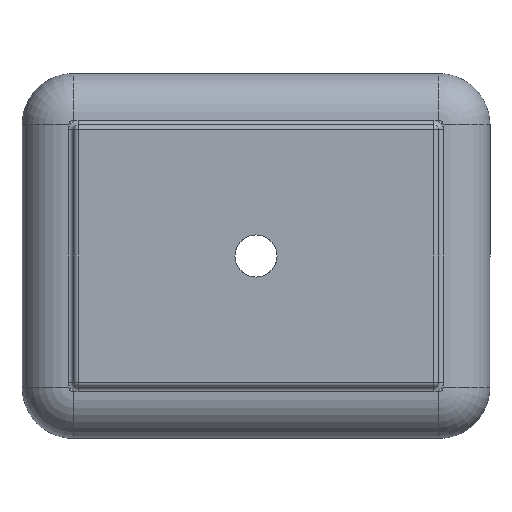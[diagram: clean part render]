
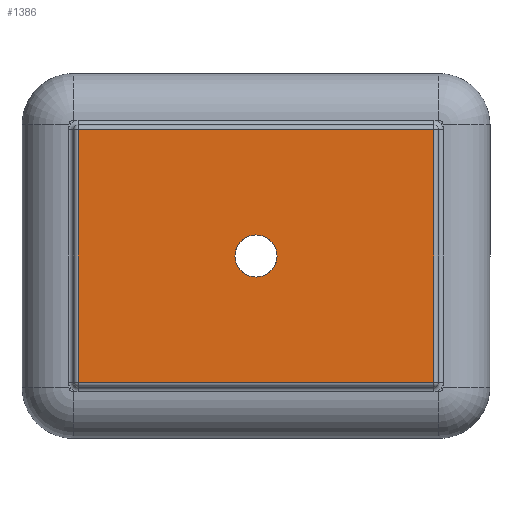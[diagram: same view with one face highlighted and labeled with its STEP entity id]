
A CAD part, front view. The second image highlights one B-rep face of the part: STEP entity #1386.
In plain terms, the highlighted planar face has unit normal (0, -1, 0).
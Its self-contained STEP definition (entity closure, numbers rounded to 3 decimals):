
#99 = CARTESIAN_POINT ( 'NONE',  ( -190., -10., -140. ) ) ;
#429 = ORIENTED_EDGE ( 'NONE', *, *, #2203, .T. ) ;
#693 = EDGE_CURVE ( 'NONE', #2411, #1945, #7846, .T. ) ;
#763 = CIRCLE ( 'NONE', #919, 22.5 ) ;
#919 = AXIS2_PLACEMENT_3D ( 'NONE', #3287, #7529, #4449 ) ;
#1123 = LINE ( 'NONE', #99, #2811 ) ;
#1386 = ADVANCED_FACE ( 'NONE', ( #6167, #6699 ), #7992, .T. ) ;
#1403 = VERTEX_POINT ( 'NONE', #3552 ) ;
#1930 = CARTESIAN_POINT ( 'NONE',  ( -195., -10., 135. ) ) ;
#1945 = VERTEX_POINT ( 'NONE', #6029 ) ;
#1991 = EDGE_CURVE ( 'NONE', #1945, #1403, #1123, .T. ) ;
#2067 = ORIENTED_EDGE ( 'NONE', *, *, #1991, .T. ) ;
#2159 = ORIENTED_EDGE ( 'NONE', *, *, #6231, .T. ) ;
#2165 = VECTOR ( 'NONE', #3246, 1000. ) ;
#2203 = EDGE_CURVE ( 'NONE', #4488, #2411, #3696, .T. ) ;
#2293 = EDGE_CURVE ( 'NONE', #1403, #4488, #5138, .T. ) ;
#2411 = VERTEX_POINT ( 'NONE', #5299 ) ;
#2561 = DIRECTION ( 'NONE',  ( 0., 0., -1. ) ) ;
#2679 = VECTOR ( 'NONE', #3271, 1000. ) ;
#2811 = VECTOR ( 'NONE', #2561, 1000. ) ;
#2984 = DIRECTION ( 'NONE',  ( 0., -1., 0. ) ) ;
#3246 = DIRECTION ( 'NONE',  ( 0., 0., 1. ) ) ;
#3271 = DIRECTION ( 'NONE',  ( -1., 0., 0. ) ) ;
#3287 = CARTESIAN_POINT ( 'NONE',  ( 0., -10., 0. ) ) ;
#3304 = VERTEX_POINT ( 'NONE', #5276 ) ;
#3552 = CARTESIAN_POINT ( 'NONE',  ( -190., -10., -135. ) ) ;
#3696 = LINE ( 'NONE', #7527, #2165 ) ;
#3985 = ORIENTED_EDGE ( 'NONE', *, *, #693, .T. ) ;
#4449 = DIRECTION ( 'NONE',  ( 0., 0., 1. ) ) ;
#4488 = VERTEX_POINT ( 'NONE', #4773 ) ;
#4773 = CARTESIAN_POINT ( 'NONE',  ( 190., -10., -135. ) ) ;
#4873 = ORIENTED_EDGE ( 'NONE', *, *, #2293, .T. ) ;
#4920 = CARTESIAN_POINT ( 'NONE',  ( 0., -10., 0. ) ) ;
#5000 = AXIS2_PLACEMENT_3D ( 'NONE', #4920, #2984, #7346 ) ;
#5138 = LINE ( 'NONE', #7648, #6681 ) ;
#5276 = CARTESIAN_POINT ( 'NONE',  ( 0., -10., 22.5 ) ) ;
#5299 = CARTESIAN_POINT ( 'NONE',  ( 190., -10., 135. ) ) ;
#5818 = DIRECTION ( 'NONE',  ( 1., 0., 0. ) ) ;
#6029 = CARTESIAN_POINT ( 'NONE',  ( -190., -10., 135. ) ) ;
#6167 = FACE_OUTER_BOUND ( 'NONE', #7587, .T. ) ;
#6231 = EDGE_CURVE ( 'NONE', #3304, #3304, #763, .T. ) ;
#6681 = VECTOR ( 'NONE', #5818, 1000. ) ;
#6699 = FACE_BOUND ( 'NONE', #6916, .T. ) ;
#6916 = EDGE_LOOP ( 'NONE', ( #2159 ) ) ;
#7346 = DIRECTION ( 'NONE',  ( 0., 0., -1. ) ) ;
#7527 = CARTESIAN_POINT ( 'NONE',  ( 190., -10., 140. ) ) ;
#7529 = DIRECTION ( 'NONE',  ( 0., 1., 0. ) ) ;
#7587 = EDGE_LOOP ( 'NONE', ( #2067, #4873, #429, #3985 ) ) ;
#7648 = CARTESIAN_POINT ( 'NONE',  ( 195., -10., -135. ) ) ;
#7846 = LINE ( 'NONE', #1930, #2679 ) ;
#7992 = PLANE ( 'NONE',  #5000 ) ;
